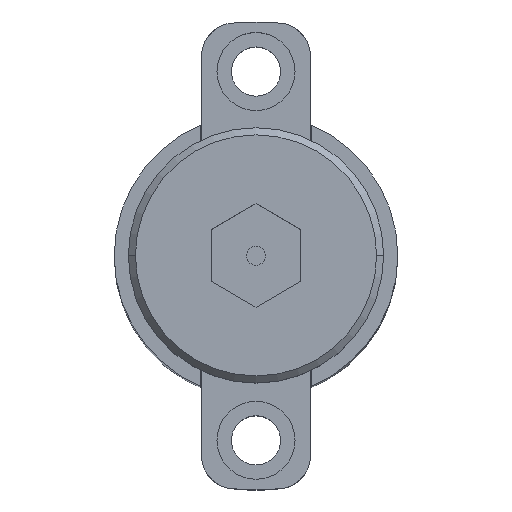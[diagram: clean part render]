
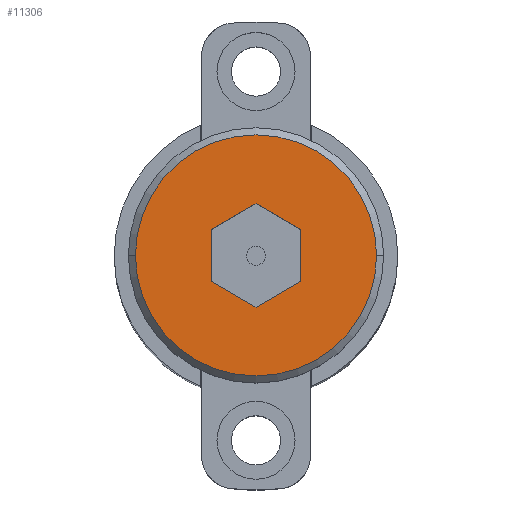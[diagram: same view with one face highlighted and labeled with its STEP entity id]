
A CAD part, top view. The second image highlights one B-rep face of the part: STEP entity #11306.
In plain terms, the highlighted planar face has unit normal (0, 0, 1).
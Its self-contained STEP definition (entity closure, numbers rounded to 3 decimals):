
#196 = DIRECTION ( 'NONE',  ( -0.866, -0.5, 0. ) ) ;
#237 = CARTESIAN_POINT ( 'NONE',  ( 0., -10.97, 0. ) ) ;
#441 = CARTESIAN_POINT ( 'NONE',  ( -9.5, -5.485, 0. ) ) ;
#666 = VERTEX_POINT ( 'NONE', #14531 ) ;
#672 = VERTEX_POINT ( 'NONE', #14472 ) ;
#1062 = EDGE_LOOP ( 'NONE', ( #8493, #13564 ) ) ;
#1319 = CARTESIAN_POINT ( 'NONE',  ( 9.5, 5.485, 0. ) ) ;
#1350 = DIRECTION ( 'NONE',  ( 0.866, 0.5, 0. ) ) ;
#1832 = ORIENTED_EDGE ( 'NONE', *, *, #13961, .F. ) ;
#1957 = VERTEX_POINT ( 'NONE', #7619 ) ;
#2216 = FACE_BOUND ( 'NONE', #10998, .T. ) ;
#2363 = CARTESIAN_POINT ( 'NONE',  ( 0., 25.5, 0. ) ) ;
#2391 = EDGE_CURVE ( 'NONE', #12904, #666, #6733, .T. ) ;
#2490 = DIRECTION ( 'NONE',  ( -0.866, 0.5, 0. ) ) ;
#2522 = CARTESIAN_POINT ( 'NONE',  ( 9.5, -5.485, 0. ) ) ;
#2528 = CARTESIAN_POINT ( 'NONE',  ( 0., 0., 0. ) ) ;
#2544 = VECTOR ( 'NONE', #1350, 1000. ) ;
#3527 = DIRECTION ( 'NONE',  ( 0., 0., -1. ) ) ;
#3695 = DIRECTION ( 'NONE',  ( 1., 0., 0. ) ) ;
#3938 = CARTESIAN_POINT ( 'NONE',  ( 25.5, 0., 0. ) ) ;
#4173 = LINE ( 'NONE', #10744, #9958 ) ;
#4303 = ORIENTED_EDGE ( 'NONE', *, *, #8637, .F. ) ;
#4376 = ORIENTED_EDGE ( 'NONE', *, *, #13150, .F. ) ;
#4441 = ORIENTED_EDGE ( 'NONE', *, *, #11410, .F. ) ;
#4458 = VERTEX_POINT ( 'NONE', #237 ) ;
#4597 = VECTOR ( 'NONE', #196, 1000. ) ;
#5351 = EDGE_CURVE ( 'NONE', #11553, #4458, #4173, .T. ) ;
#5468 = VECTOR ( 'NONE', #5703, 1000. ) ;
#5604 = CARTESIAN_POINT ( 'NONE',  ( 0., 0., 0. ) ) ;
#5667 = LINE ( 'NONE', #8332, #2544 ) ;
#5703 = DIRECTION ( 'NONE',  ( 0., -1., 0. ) ) ;
#6415 = VECTOR ( 'NONE', #2490, 1000. ) ;
#6733 = CIRCLE ( 'NONE', #12914, 25.5 ) ;
#6754 = DIRECTION ( 'NONE',  ( 1., 0., 0. ) ) ;
#6756 = LINE ( 'NONE', #1319, #6415 ) ;
#7002 = AXIS2_PLACEMENT_3D ( 'NONE', #2363, #3527, #11659 ) ;
#7619 = CARTESIAN_POINT ( 'NONE',  ( 0., 10.97, 0. ) ) ;
#8077 = ORIENTED_EDGE ( 'NONE', *, *, #5351, .F. ) ;
#8332 = CARTESIAN_POINT ( 'NONE',  ( 0., -10.97, 0. ) ) ;
#8424 = FACE_OUTER_BOUND ( 'NONE', #1062, .T. ) ;
#8493 = ORIENTED_EDGE ( 'NONE', *, *, #8851, .T. ) ;
#8637 = EDGE_CURVE ( 'NONE', #13763, #11553, #11232, .T. ) ;
#8706 = AXIS2_PLACEMENT_3D ( 'NONE', #2528, #10641, #3695 ) ;
#8851 = EDGE_CURVE ( 'NONE', #666, #12904, #9398, .T. ) ;
#9309 = PLANE ( 'NONE',  #7002 ) ;
#9398 = CIRCLE ( 'NONE', #8706, 25.5 ) ;
#9476 = DIRECTION ( 'NONE',  ( 0., 1., 0. ) ) ;
#9958 = VECTOR ( 'NONE', #14268, 1000. ) ;
#10296 = CARTESIAN_POINT ( 'NONE',  ( -9.5, 5.485, 0. ) ) ;
#10641 = DIRECTION ( 'NONE',  ( 0., 0., 1. ) ) ;
#10744 = CARTESIAN_POINT ( 'NONE',  ( -9.5, -5.485, 0. ) ) ;
#10998 = EDGE_LOOP ( 'NONE', ( #14362, #4376, #4441, #1832, #8077, #4303 ) ) ;
#11141 = LINE ( 'NONE', #14116, #4597 ) ;
#11232 = LINE ( 'NONE', #13820, #5468 ) ;
#11306 = ADVANCED_FACE ( 'NONE', ( #2216, #8424 ), #9309, .F. ) ;
#11362 = EDGE_CURVE ( 'NONE', #1957, #13763, #11141, .T. ) ;
#11363 = CARTESIAN_POINT ( 'NONE',  ( 9.5, -5.485, 0. ) ) ;
#11410 = EDGE_CURVE ( 'NONE', #12510, #672, #13528, .T. ) ;
#11553 = VERTEX_POINT ( 'NONE', #441 ) ;
#11659 = DIRECTION ( 'NONE',  ( -1., 0., 0. ) ) ;
#12510 = VERTEX_POINT ( 'NONE', #11363 ) ;
#12904 = VERTEX_POINT ( 'NONE', #3938 ) ;
#12914 = AXIS2_PLACEMENT_3D ( 'NONE', #5604, #13709, #6754 ) ;
#13150 = EDGE_CURVE ( 'NONE', #672, #1957, #6756, .T. ) ;
#13528 = LINE ( 'NONE', #2522, #13867 ) ;
#13564 = ORIENTED_EDGE ( 'NONE', *, *, #2391, .T. ) ;
#13709 = DIRECTION ( 'NONE',  ( 0., 0., 1. ) ) ;
#13763 = VERTEX_POINT ( 'NONE', #10296 ) ;
#13820 = CARTESIAN_POINT ( 'NONE',  ( -9.5, 5.485, 0. ) ) ;
#13867 = VECTOR ( 'NONE', #9476, 1000. ) ;
#13961 = EDGE_CURVE ( 'NONE', #4458, #12510, #5667, .T. ) ;
#14116 = CARTESIAN_POINT ( 'NONE',  ( 0., 10.97, 0. ) ) ;
#14268 = DIRECTION ( 'NONE',  ( 0.866, -0.5, 0. ) ) ;
#14362 = ORIENTED_EDGE ( 'NONE', *, *, #11362, .F. ) ;
#14472 = CARTESIAN_POINT ( 'NONE',  ( 9.5, 5.485, 0. ) ) ;
#14531 = CARTESIAN_POINT ( 'NONE',  ( -25.5, 0., 0. ) ) ;
